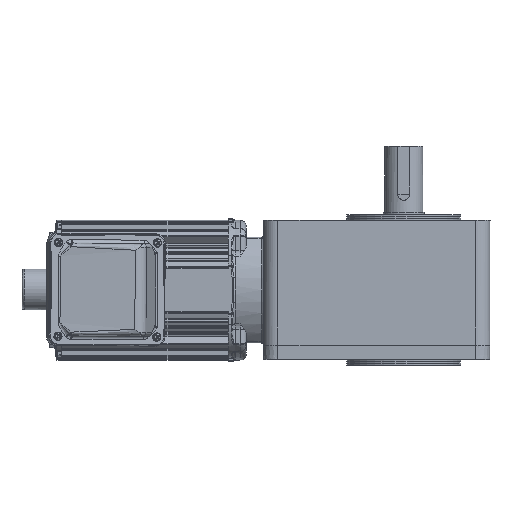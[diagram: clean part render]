
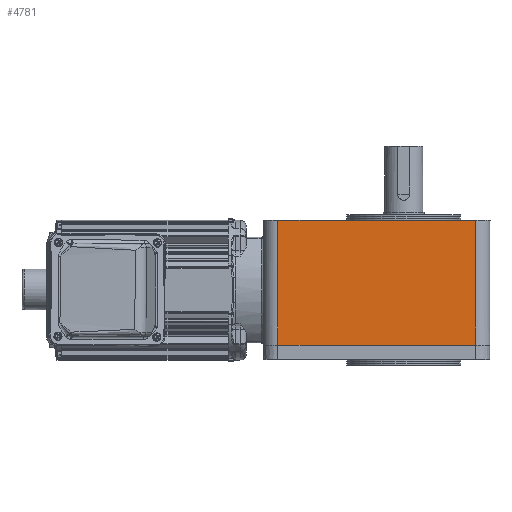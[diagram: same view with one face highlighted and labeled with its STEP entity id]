
A CAD part, top view. The second image highlights one B-rep face of the part: STEP entity #4781.
In plain terms, the highlighted planar face has unit normal (0, 0, 1).
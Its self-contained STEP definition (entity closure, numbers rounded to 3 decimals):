
#4781 = ADVANCED_FACE( '', ( #10506 ), #10507, .T. );
#10506 = FACE_OUTER_BOUND( '', #38010, .T. );
#10507 = PLANE( '', #38011 );
#38010 = EDGE_LOOP( '', ( #63106, #63107, #63108, #63109 ) );
#38011 = AXIS2_PLACEMENT_3D( '', #63110, #63111, #63112 );
#63106 = ORIENTED_EDGE( '', *, *, #73665, .F. );
#63107 = ORIENTED_EDGE( '', *, *, #74927, .T. );
#63108 = ORIENTED_EDGE( '', *, *, #73392, .T. );
#63109 = ORIENTED_EDGE( '', *, *, #74928, .T. );
#63110 = CARTESIAN_POINT( '', ( 159.542, 115.5, 73.82 ) );
#63111 = DIRECTION( '', ( 0., 0., 1. ) );
#63112 = DIRECTION( '', ( 1., 0., 0. ) );
#73392 = EDGE_CURVE( '', #82788, #82789, #82790, .T. );
#73665 = EDGE_CURVE( '', #83163, #83165, #83166, .T. );
#74927 = EDGE_CURVE( '', #83163, #82788, #84817, .T. );
#74928 = EDGE_CURVE( '', #82789, #83165, #84818, .T. );
#82788 = VERTEX_POINT( '', #106192 );
#82789 = VERTEX_POINT( '', #106193 );
#82790 = LINE( '', #106194, #106195 );
#83163 = VERTEX_POINT( '', #107276 );
#83165 = VERTEX_POINT( '', #107278 );
#83166 = LINE( '', #107279, #107280 );
#84817 = LINE( '', #114577, #114578 );
#84818 = B_SPLINE_CURVE_WITH_KNOTS( '', 1, ( #114579, #114580 ), .UNSPECIFIED., .F., .F., ( 2, 2 ), ( 0., 1. ), .UNSPECIFIED. );
#106192 = CARTESIAN_POINT( '', ( -5.458, 115., 73.82 ) );
#106193 = CARTESIAN_POINT( '', ( -5.458, 11., 73.816 ) );
#106194 = CARTESIAN_POINT( '', ( -5.458, 115.5, 73.82 ) );
#106195 = VECTOR( '', #123536, 1000. );
#107276 = CARTESIAN_POINT( '', ( 159.542, 115., 73.82 ) );
#107278 = CARTESIAN_POINT( '', ( 159.542, 11., 73.816 ) );
#107279 = CARTESIAN_POINT( '', ( 159.542, 115.5, 73.82 ) );
#107280 = VECTOR( '', #123891, 1000. );
#114577 = CARTESIAN_POINT( '', ( 159.542, 115., 73.82 ) );
#114578 = VECTOR( '', #125395, 1000. );
#114579 = CARTESIAN_POINT( '', ( -5.458, 11., 73.82 ) );
#114580 = CARTESIAN_POINT( '', ( 159.542, 11., 73.82 ) );
#123536 = DIRECTION( '', ( 0., -1., 0. ) );
#123891 = DIRECTION( '', ( 0., -1., 0. ) );
#125395 = DIRECTION( '', ( -1., 0., 0. ) );
